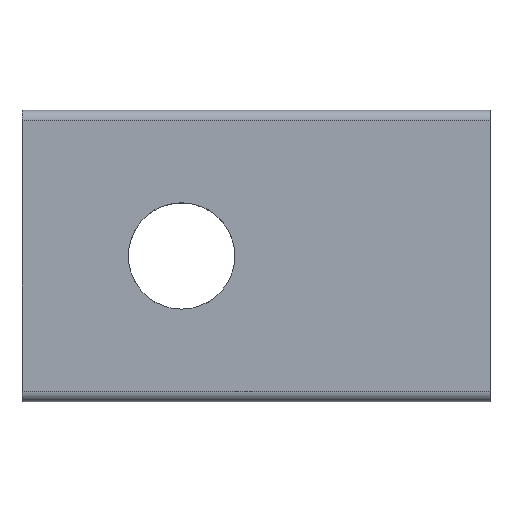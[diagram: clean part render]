
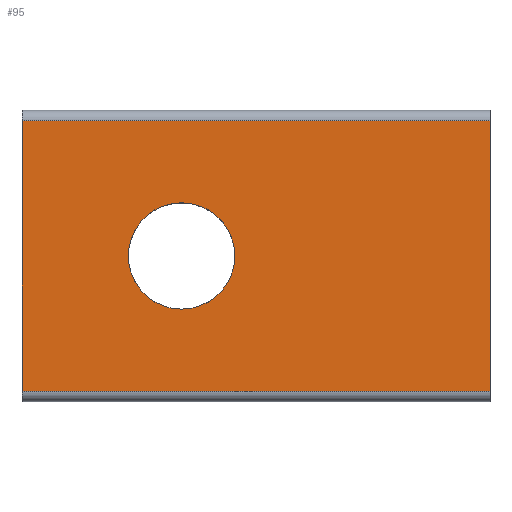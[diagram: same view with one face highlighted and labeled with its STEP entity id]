
A CAD part, top view. The second image highlights one B-rep face of the part: STEP entity #95.
In plain terms, the highlighted planar face has unit normal (0, 0, 1).
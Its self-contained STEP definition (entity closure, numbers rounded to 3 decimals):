
#7 = LINE ( 'NONE', #261, #79 ) ;
#11 = CARTESIAN_POINT ( 'NONE',  ( -7.5, 6.35, 0. ) ) ;
#16 = CARTESIAN_POINT ( 'NONE',  ( 14.5, 6.35, 0. ) ) ;
#29 = ORIENTED_EDGE ( 'NONE', *, *, #410, .F. ) ;
#30 = EDGE_LOOP ( 'NONE', ( #86, #252, #262, #466 ) ) ;
#35 = VERTEX_POINT ( 'NONE', #365 ) ;
#37 = VERTEX_POINT ( 'NONE', #121 ) ;
#48 = VERTEX_POINT ( 'NONE', #11 ) ;
#56 = PLANE ( 'NONE',  #191 ) ;
#63 = DIRECTION ( 'NONE',  ( -1., 0., 0. ) ) ;
#69 = DIRECTION ( 'NONE',  ( 0., -1., 0. ) ) ;
#71 = VERTEX_POINT ( 'NONE', #205 ) ;
#79 = VECTOR ( 'NONE', #214, 1000. ) ;
#85 = CARTESIAN_POINT ( 'NONE',  ( 0., 0., 0. ) ) ;
#86 = ORIENTED_EDGE ( 'NONE', *, *, #180, .T. ) ;
#91 = EDGE_CURVE ( 'NONE', #35, #566, #7, .T. ) ;
#95 = ADVANCED_FACE ( 'NONE', ( #582, #585 ), #56, .F. ) ;
#101 = VECTOR ( 'NONE', #480, 1000. ) ;
#106 = CIRCLE ( 'NONE', #184, 2.5 ) ;
#114 = CARTESIAN_POINT ( 'NONE',  ( 14.5, 6.35, 0. ) ) ;
#121 = CARTESIAN_POINT ( 'NONE',  ( 2.5, 0., 0. ) ) ;
#130 = VERTEX_POINT ( 'NONE', #16 ) ;
#131 = DIRECTION ( 'NONE',  ( 0., 0., 1. ) ) ;
#167 = EDGE_CURVE ( 'NONE', #130, #35, #309, .T. ) ;
#180 = EDGE_CURVE ( 'NONE', #48, #566, #494, .T. ) ;
#184 = AXIS2_PLACEMENT_3D ( 'NONE', #85, #131, #517 ) ;
#191 = AXIS2_PLACEMENT_3D ( 'NONE', #114, #535, #63 ) ;
#205 = CARTESIAN_POINT ( 'NONE',  ( -2.5, 0., 0. ) ) ;
#214 = DIRECTION ( 'NONE',  ( -1., 0., 0. ) ) ;
#230 = EDGE_CURVE ( 'NONE', #71, #37, #106, .T. ) ;
#236 = AXIS2_PLACEMENT_3D ( 'NONE', #303, #343, #528 ) ;
#252 = ORIENTED_EDGE ( 'NONE', *, *, #91, .F. ) ;
#261 = CARTESIAN_POINT ( 'NONE',  ( 14.5, -6.35, 0. ) ) ;
#262 = ORIENTED_EDGE ( 'NONE', *, *, #167, .F. ) ;
#303 = CARTESIAN_POINT ( 'NONE',  ( 0., 0., 0. ) ) ;
#309 = LINE ( 'NONE', #531, #446 ) ;
#314 = EDGE_CURVE ( 'NONE', #130, #48, #520, .T. ) ;
#336 = ORIENTED_EDGE ( 'NONE', *, *, #230, .F. ) ;
#343 = DIRECTION ( 'NONE',  ( 0., 0., 1. ) ) ;
#365 = CARTESIAN_POINT ( 'NONE',  ( 14.5, -6.35, 0. ) ) ;
#392 = CARTESIAN_POINT ( 'NONE',  ( 14.5, 6.35, 0. ) ) ;
#410 = EDGE_CURVE ( 'NONE', #37, #71, #502, .T. ) ;
#446 = VECTOR ( 'NONE', #452, 1000. ) ;
#452 = DIRECTION ( 'NONE',  ( 0., -1., 0. ) ) ;
#456 = CARTESIAN_POINT ( 'NONE',  ( -7.5, 6.35, 0. ) ) ;
#466 = ORIENTED_EDGE ( 'NONE', *, *, #314, .T. ) ;
#480 = DIRECTION ( 'NONE',  ( -1., 0., 0. ) ) ;
#481 = CARTESIAN_POINT ( 'NONE',  ( -7.5, -6.35, 0. ) ) ;
#494 = LINE ( 'NONE', #456, #561 ) ;
#502 = CIRCLE ( 'NONE', #236, 2.5 ) ;
#506 = EDGE_LOOP ( 'NONE', ( #29, #336 ) ) ;
#517 = DIRECTION ( 'NONE',  ( 1., 0., 0. ) ) ;
#520 = LINE ( 'NONE', #392, #101 ) ;
#528 = DIRECTION ( 'NONE',  ( 1., 0., 0. ) ) ;
#531 = CARTESIAN_POINT ( 'NONE',  ( 14.5, 6.35, 0. ) ) ;
#535 = DIRECTION ( 'NONE',  ( 0., 0., -1. ) ) ;
#561 = VECTOR ( 'NONE', #69, 1000. ) ;
#566 = VERTEX_POINT ( 'NONE', #481 ) ;
#582 = FACE_BOUND ( 'NONE', #506, .T. ) ;
#585 = FACE_OUTER_BOUND ( 'NONE', #30, .T. ) ;
